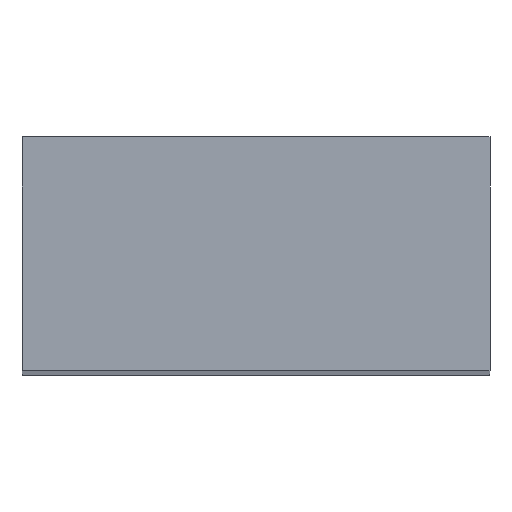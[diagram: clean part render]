
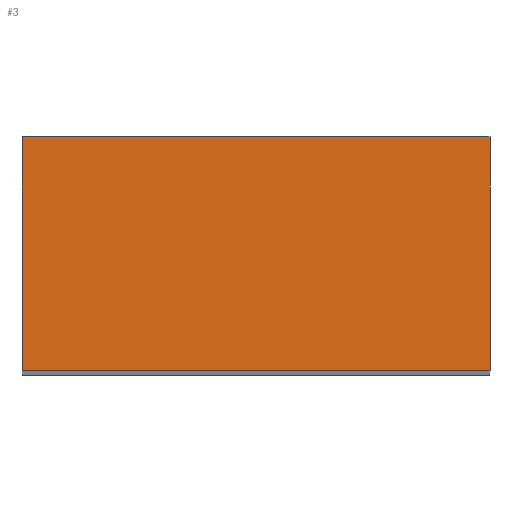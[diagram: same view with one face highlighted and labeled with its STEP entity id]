
A CAD part, top view. The second image highlights one B-rep face of the part: STEP entity #3.
In plain terms, the highlighted planar face has unit normal (0, 0, 1).
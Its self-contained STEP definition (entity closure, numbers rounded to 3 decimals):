
#3 = ADVANCED_FACE ( 'NONE', ( #106 ), #180, .F. ) ;
#6 = ORIENTED_EDGE ( 'NONE', *, *, #8, .T. ) ;
#8 = EDGE_CURVE ( 'NONE', #23, #55, #90, .T. ) ;
#9 = DIRECTION ( 'NONE',  ( 1., 0., 0. ) ) ;
#20 = DIRECTION ( 'NONE',  ( 0., 0., -1. ) ) ;
#23 = VERTEX_POINT ( 'NONE', #78 ) ;
#27 = LINE ( 'NONE', #64, #212 ) ;
#33 = EDGE_CURVE ( 'NONE', #23, #182, #27, .T. ) ;
#38 = VECTOR ( 'NONE', #65, 1000. ) ;
#46 = CARTESIAN_POINT ( 'NONE',  ( 24., 0., 130. ) ) ;
#55 = VERTEX_POINT ( 'NONE', #193 ) ;
#57 = VERTEX_POINT ( 'NONE', #46 ) ;
#62 = EDGE_CURVE ( 'NONE', #182, #57, #98, .T. ) ;
#63 = DIRECTION ( 'NONE',  ( 0., -1., 0. ) ) ;
#64 = CARTESIAN_POINT ( 'NONE',  ( -24., 24., 130. ) ) ;
#65 = DIRECTION ( 'NONE',  ( 1., 0., 0. ) ) ;
#78 = CARTESIAN_POINT ( 'NONE',  ( -24., 24., 130. ) ) ;
#88 = AXIS2_PLACEMENT_3D ( 'NONE', #131, #20, #165 ) ;
#90 = LINE ( 'NONE', #148, #214 ) ;
#91 = ORIENTED_EDGE ( 'NONE', *, *, #62, .F. ) ;
#98 = LINE ( 'NONE', #207, #173 ) ;
#106 = FACE_OUTER_BOUND ( 'NONE', #219, .T. ) ;
#131 = CARTESIAN_POINT ( 'NONE',  ( -24., 24., 130. ) ) ;
#140 = CARTESIAN_POINT ( 'NONE',  ( 24., 24., 130. ) ) ;
#148 = CARTESIAN_POINT ( 'NONE',  ( -24., 24., 130. ) ) ;
#154 = LINE ( 'NONE', #226, #38 ) ;
#165 = DIRECTION ( 'NONE',  ( -1., 0., 0. ) ) ;
#173 = VECTOR ( 'NONE', #63, 1000. ) ;
#180 = PLANE ( 'NONE',  #88 ) ;
#182 = VERTEX_POINT ( 'NONE', #140 ) ;
#193 = CARTESIAN_POINT ( 'NONE',  ( -24., 0., 130. ) ) ;
#200 = DIRECTION ( 'NONE',  ( 0., -1., 0. ) ) ;
#203 = ORIENTED_EDGE ( 'NONE', *, *, #33, .F. ) ;
#205 = EDGE_CURVE ( 'NONE', #55, #57, #154, .T. ) ;
#207 = CARTESIAN_POINT ( 'NONE',  ( 24., 24., 130. ) ) ;
#212 = VECTOR ( 'NONE', #9, 1000. ) ;
#214 = VECTOR ( 'NONE', #200, 1000. ) ;
#219 = EDGE_LOOP ( 'NONE', ( #221, #91, #203, #6 ) ) ;
#221 = ORIENTED_EDGE ( 'NONE', *, *, #205, .T. ) ;
#226 = CARTESIAN_POINT ( 'NONE',  ( -24., 0., 130. ) ) ;
